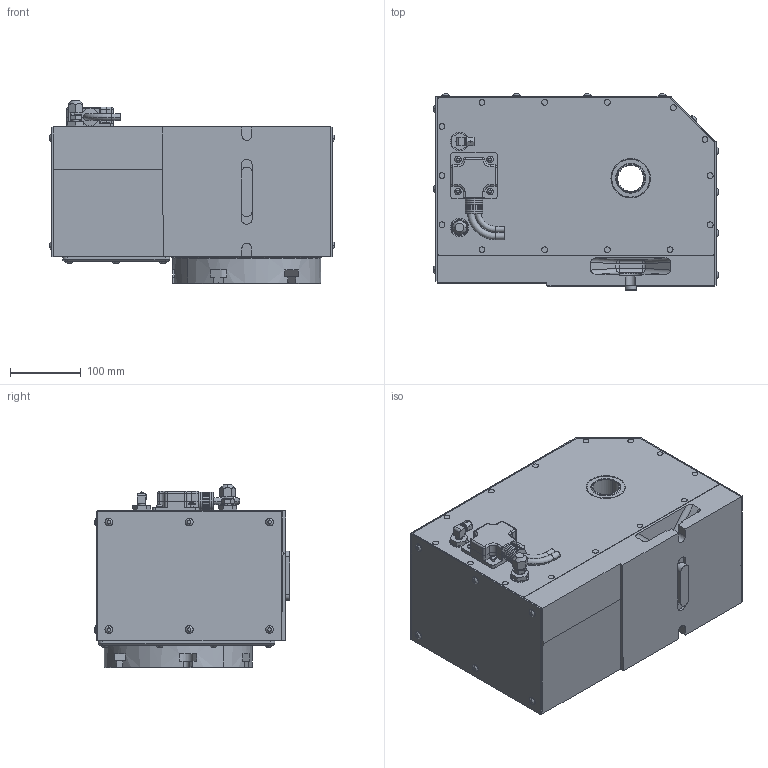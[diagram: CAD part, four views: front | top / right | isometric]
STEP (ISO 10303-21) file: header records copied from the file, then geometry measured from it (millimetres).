
FILE_DESCRIPTION (( 'STEP AP214' ), '1' );
FILE_NAME ('HRT210SS_STEP_2020-03.STEP', '2020-03-06T18:15:53', ( '' ), ( '' ), 'SwSTEP 2.0', 'SolidWorks 2019', '' );
FILE_SCHEMA (( 'AUTOMOTIVE_DESIGN' ));
Length unit declared in the file: inch
Products named in the file (3): Group2^10000126174_2020-03_defeature; Group1^10000126174_2020-03_defeature; HRT210SS_STEP_2020-03
Assembly tree (2 placements, depth 2):
  HRT210SS_STEP_2020-03
    Group1^10000126174_2020-03_defeature
    Group2^10000126174_2020-03_defeature
Bounding box: 404.31 x 277.79 x 259.87 mm (x, y, z)
Volume: 20358582.9 mm3; surface area: 809723.2 mm2
Topology: 3 solids, 12 shells, 1274 faces, 3095 edges, 1956 vertices
Faces by surface type: plane 563, cylinder 382, cone 213, sphere 84, torus 32
Entity records: 49027 total; most frequent: CARTESIAN_POINT 7913, DIRECTION 6838, ORIENTED_EDGE 6190, EDGE_CURVE 3095, AXIS2_PLACEMENT_3D 2750, VERTEX_POINT 1956, CIRCLE 1471, EDGE_LOOP 1421
